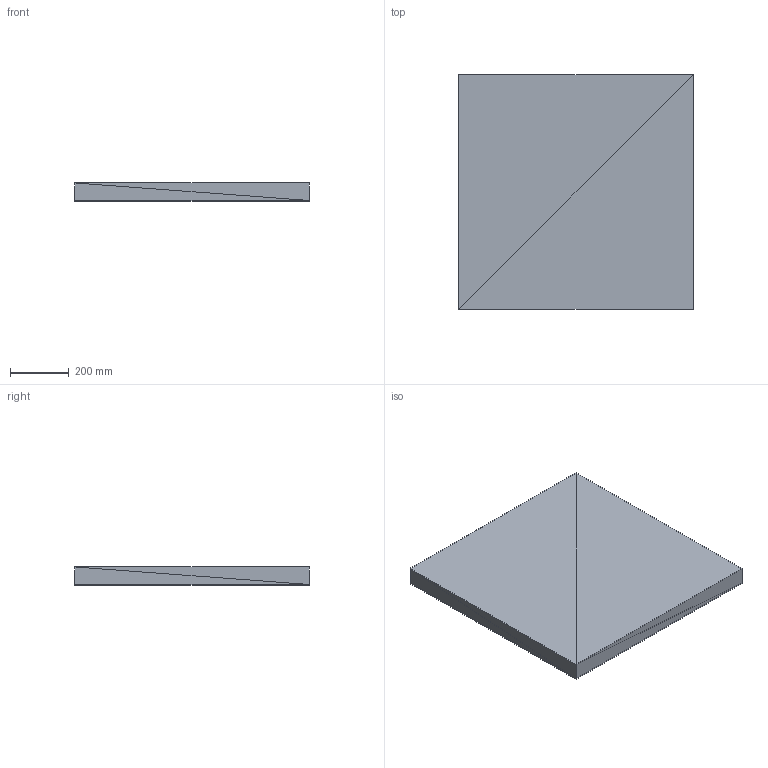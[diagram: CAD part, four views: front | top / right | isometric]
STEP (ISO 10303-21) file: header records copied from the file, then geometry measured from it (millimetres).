
FILE_DESCRIPTION(('ISINAC STEP AP214'),'2;1');
FILE_NAME('ISINAC_C.800_60mm_IMANTADA','2026-05-03T10:49:19',('ISINAC'),('www.isinac.com'),'ISINAC BIM Generator 1.0','','');
FILE_SCHEMA(('AUTOMOTIVE_DESIGN'));
Length unit declared in the file: millimetre
Products named in the file (1): ISINAC_C.800_60mm_IMANTADA
Bounding box: 800 x 800 x 62 mm (x, y, z)
Surface area: 2758400 mm2 (no closed solid volume)
Topology: 0 solids, 24 shells, 24 faces, 72 edges, 72 vertices
Faces by surface type: plane 24
Entity records: 277 total; most frequent: CARTESIAN_POINT 96, DIRECTION 48, POLY_LOOP 24, FACE_OUTER_BOUND 24, AXIS2_PLACEMENT_3D 24, PLANE 24, FACE_SURFACE 24, CLOSED_SHELL 1
